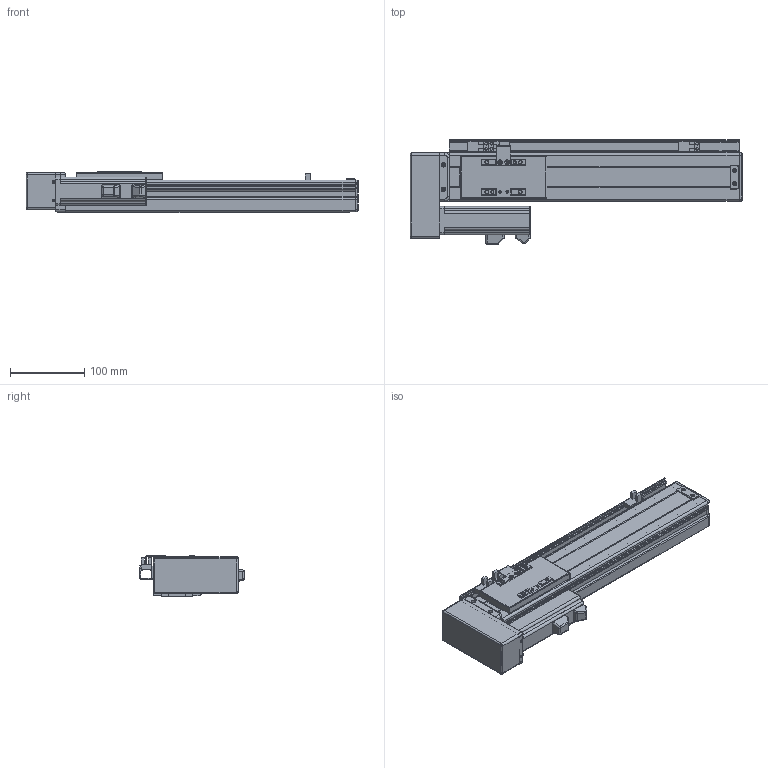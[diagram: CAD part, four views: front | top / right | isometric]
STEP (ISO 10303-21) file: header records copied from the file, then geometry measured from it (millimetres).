
FILE_DESCRIPTION (( 'STEP AP203' ), '1' );
FILE_NAME ('VT6-S240-BL.STEP', '2016-06-17T09:47:46', ( '' ), ( '' ), 'SwSTEP 2.0', 'SolidWorks 2013', '' );
FILE_SCHEMA (( 'CONFIG_CONTROL_DESIGN' ));
Length unit declared in the file: millimetre
Products named in the file (17): T6-BMRL肮祭湍謫欶; T6-覜茼え; T6-BRL萇儂假蚾啣; T6-綴傷裔; 侂狟100W MSMD012G1V; EE-XS674; ET6-BC耜啣_240; VT6-S240-BL; ET6-BLRM絳寢_俴最240; ET6-BC癹弇羲壽羞_240; ET6-BLRM滅鳥湍_240; T6-賑雄殤; ET6-BLRM佪裝_240; T6-BMLRヶ傷裔; T6-裔啣; T6-BMRLヶ傷裔揤啣; T6-揤輸
Assembly tree (19 placements, depth 2):
  VT6-S240-BL
    ET6-BC耜啣_240  x2
    ET6-BC癹弇羲壽羞_240
    T6-賑雄殤
    T6-裔啣
    T6-揤輸
    T6-覜茼え
    T6-綴傷裔
    EE-XS674  x3
    ET6-BLRM絳寢_俴最240
    ET6-BLRM滅鳥湍_240
    ET6-BLRM佪裝_240
    T6-BMLRヶ傷裔
    T6-BMRLヶ傷裔揤啣
    T6-BMRL肮祭湍謫欶
    T6-BRL萇儂假蚾啣
    侂狟100W MSMD012G1V
Bounding box: 447 x 141 x 56 mm (x, y, z)
Volume: 681763.5 mm3; surface area: 384883.4 mm2
Topology: 19 solids, 19 shells, 881 faces, 2328 edges, 1472 vertices
Faces by surface type: cylinder 407, plane 374, cone 46, torus 36, sphere 18
Entity records: 27101 total; most frequent: CARTESIAN_POINT 4561, DIRECTION 4518, ORIENTED_EDGE 4174, EDGE_CURVE 2087, AXIS2_PLACEMENT_3D 1649, VERTEX_POINT 1332, LINE 1220, VECTOR 1220
